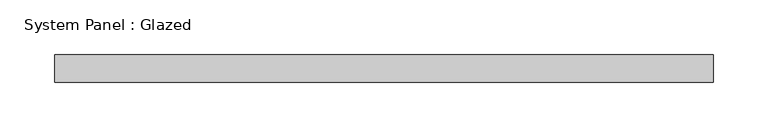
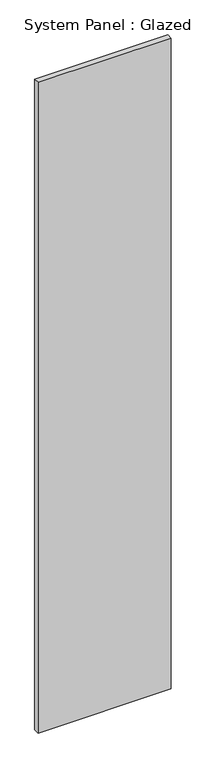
"""IFC4 building model written with IfcOpenShell, lengths in millimetres: plate geometry, System Panel : Glazed."""

from ifc_helpers import new_model, si_unit, origin, origin_with_axes, place, context, project, spatial, polyline, outline, extrude, source, transform, mapped, element, save


def system_panel_glazed_a7232eb8(model_context):
    return source(origin(), model_context, "Body", "SweptSolid", [
        extrude(outline(polyline([(300.0, 24.5), (-300.0, 24.5), (-300.0, 49.5), (300.0, 49.5), (300.0, 24.5)])), origin_with_axes(), (0.0, 0.0, 1.0), 3100.0),
    ])


if __name__ == "__main__":
    model = new_model("IFC4")
    model_context = context("Model", 3, world=origin())
    ifc_project = project(units=[si_unit("LENGTHUNIT", "METRE", prefix="MILLI")], contexts=[model_context])
    site = spatial("IfcSite", under=ifc_project)
    building = spatial("IfcBuilding", under=site)
    placement = place(None, origin())
    system_panel_glazed_shape = system_panel_glazed_a7232eb8(model_context)
    element("IfcPlate", 1, ObjectType="System Panel : Glazed", at=placement, inside=building, context=model_context, shape_type="MappedRepresentation", body=[
        mapped(system_panel_glazed_shape, transform((0.0, 0.0, 0.0), x_axis=(1.0, 0.0, 0.0), y_axis=(0.0, 1.0, 0.0), z_axis=(0.0, 0.0, 1.0))),
    ])
    save(model, "model.ifc")
